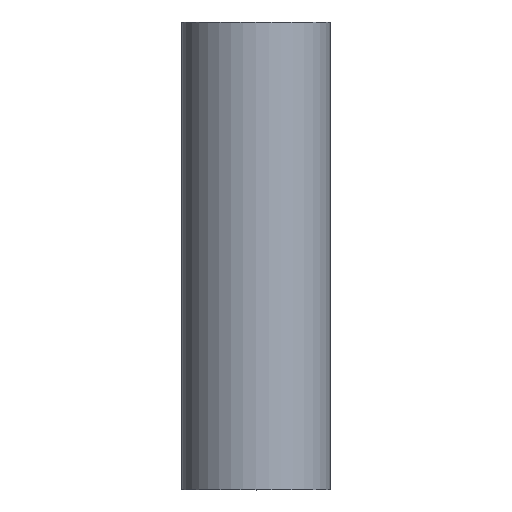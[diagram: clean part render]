
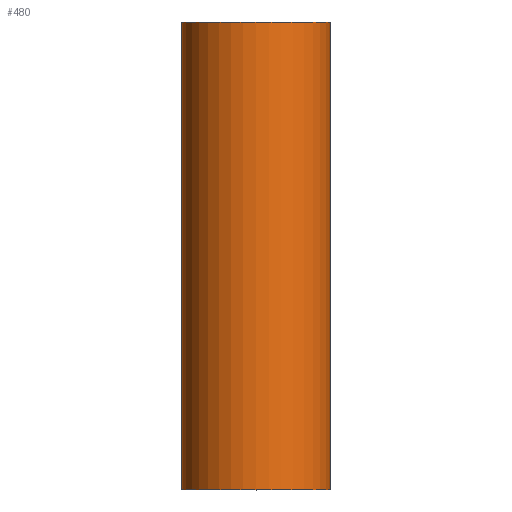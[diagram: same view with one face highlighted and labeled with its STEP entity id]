
A CAD part, top view. The second image highlights one B-rep face of the part: STEP entity #480.
In plain terms, the highlighted cylindrical face has radius 20 mm (diameter 40 mm), a partial arc.
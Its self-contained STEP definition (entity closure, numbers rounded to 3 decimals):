
#336=CARTESIAN_POINT('',(0.,0.,0.));
#337=DIRECTION('',(0.,1.,0.));
#338=DIRECTION('',(-1.,0.,0.));
#339=AXIS2_PLACEMENT_3D('',#336,#337,#338);
#364=CARTESIAN_POINT('',(0.,126.,0.));
#365=DIRECTION('',(0.,1.,0.));
#366=DIRECTION('',(-1.,0.,0.));
#367=AXIS2_PLACEMENT_3D('',#364,#365,#366);
#369=DIRECTION('',(0.,1.,0.));
#370=VECTOR('',#369,126.);
#371=CARTESIAN_POINT('',(20.,0.,0.));
#372=LINE('',#371,#370);
#373=DIRECTION('',(0.,1.,0.));
#374=VECTOR('',#373,126.);
#375=CARTESIAN_POINT('',(-20.,0.,0.));
#376=LINE('',#375,#374);
#381=CARTESIAN_POINT('',(20.,0.,0.));
#382=CARTESIAN_POINT('',(-20.,0.,0.));
#383=VERTEX_POINT('',#381);
#384=VERTEX_POINT('',#382);
#389=CARTESIAN_POINT('',(20.,126.,0.));
#390=CARTESIAN_POINT('',(-20.,126.,0.));
#391=VERTEX_POINT('',#389);
#392=VERTEX_POINT('',#390);
#469=CARTESIAN_POINT('',(0.,0.,0.));
#470=DIRECTION('',(0.,1.,0.));
#471=DIRECTION('',(1.,0.,0.));
#472=AXIS2_PLACEMENT_3D('',#469,#470,#471);
#473=CYLINDRICAL_SURFACE('',#472,20.);
#474=ORIENTED_EDGE('',*,*,#400,.F.);
#475=ORIENTED_EDGE('',*,*,#464,.T.);
#476=ORIENTED_EDGE('',*,*,#446,.T.);
#477=ORIENTED_EDGE('',*,*,#461,.F.);
#478=EDGE_LOOP('',(#474,#475,#476,#477));
#479=FACE_OUTER_BOUND('',#478,.F.);
#480=ADVANCED_FACE('',(#479),#473,.T.);
#340=CIRCLE('',#339,20.);
#368=CIRCLE('',#367,20.);
#400=EDGE_CURVE('',#384,#383,#340,.T.);
#446=EDGE_CURVE('',#392,#391,#368,.T.);
#461=EDGE_CURVE('',#383,#391,#372,.T.);
#464=EDGE_CURVE('',#384,#392,#376,.T.);
